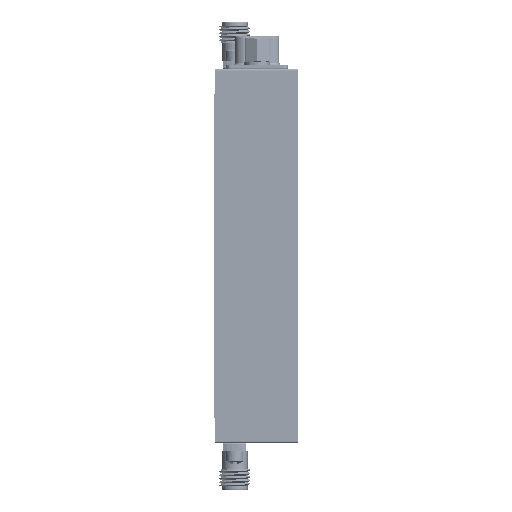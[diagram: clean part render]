
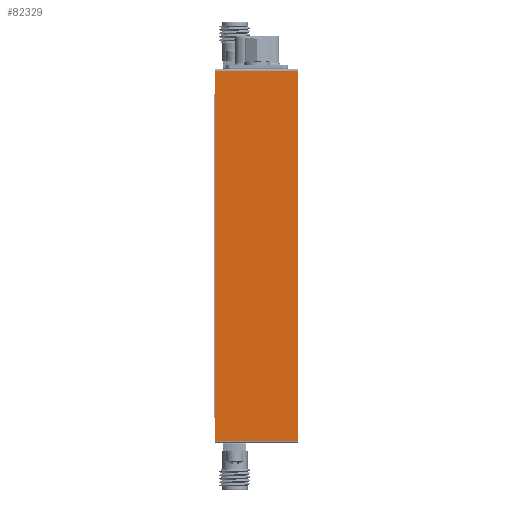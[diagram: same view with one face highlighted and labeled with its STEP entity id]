
A CAD part, left-side view. The second image highlights one B-rep face of the part: STEP entity #82329.
In plain terms, the highlighted planar face has unit normal (-1, 0, 0).
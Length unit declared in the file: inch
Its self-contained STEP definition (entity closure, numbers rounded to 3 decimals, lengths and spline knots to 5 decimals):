
#27375 = VECTOR ( 'NONE', #102559, 39.37008 ) ;
#36133 = EDGE_CURVE ( 'NONE', #170021, #196539, #82356, .T. ) ;
#36140 = ORIENTED_EDGE ( 'NONE', *, *, #221709, .T. ) ;
#48742 = DIRECTION ( 'NONE',  ( 0., -1., 0. ) ) ;
#73698 = CARTESIAN_POINT ( 'NONE',  ( -4.3259, -0.2891, -1.74966 ) ) ;
#82329 = ADVANCED_FACE ( 'NONE', ( #142384 ), #139967, .F. ) ;
#82356 = LINE ( 'NONE', #227125, #201061 ) ;
#87665 = VECTOR ( 'NONE', #213393, 39.37008 ) ;
#89403 = ORIENTED_EDGE ( 'NONE', *, *, #36133, .F. ) ;
#102559 = DIRECTION ( 'NONE',  ( 0., -1., 0. ) ) ;
#103478 = DIRECTION ( 'NONE',  ( 1., 0., 0. ) ) ;
#104943 = LINE ( 'NONE', #231574, #27375 ) ;
#123126 = VERTEX_POINT ( 'NONE', #73698 ) ;
#134722 = VERTEX_POINT ( 'NONE', #174022 ) ;
#139967 = PLANE ( 'NONE',  #173353 ) ;
#142384 = FACE_OUTER_BOUND ( 'NONE', #179515, .T. ) ;
#156993 = CARTESIAN_POINT ( 'NONE',  ( -4.3259, 0.3809, -1.74966 ) ) ;
#161689 = LINE ( 'NONE', #175101, #193420 ) ;
#163027 = DIRECTION ( 'NONE',  ( 0., 0., -1. ) ) ;
#170021 = VERTEX_POINT ( 'NONE', #234622 ) ;
#172385 = DIRECTION ( 'NONE',  ( 0., 0., 1. ) ) ;
#173353 = AXIS2_PLACEMENT_3D ( 'NONE', #156993, #103478, #163027 ) ;
#174022 = CARTESIAN_POINT ( 'NONE',  ( -4.3259, -0.2891, 1.22034 ) ) ;
#175101 = CARTESIAN_POINT ( 'NONE',  ( -4.3259, 0.3809, -1.74966 ) ) ;
#178681 = EDGE_CURVE ( 'NONE', #170021, #123126, #161689, .T. ) ;
#179515 = EDGE_LOOP ( 'NONE', ( #36140, #212175, #89403, #179536 ) ) ;
#179536 = ORIENTED_EDGE ( 'NONE', *, *, #178681, .T. ) ;
#193420 = VECTOR ( 'NONE', #48742, 39.37008 ) ;
#196539 = VERTEX_POINT ( 'NONE', #215253 ) ;
#197636 = CARTESIAN_POINT ( 'NONE',  ( -4.3259, -0.2891, -1.74966 ) ) ;
#201061 = VECTOR ( 'NONE', #172385, 39.37008 ) ;
#212175 = ORIENTED_EDGE ( 'NONE', *, *, #212368, .F. ) ;
#212368 = EDGE_CURVE ( 'NONE', #196539, #134722, #104943, .T. ) ;
#213393 = DIRECTION ( 'NONE',  ( 0., 0., 1. ) ) ;
#215253 = CARTESIAN_POINT ( 'NONE',  ( -4.3259, 0.3809, 1.22034 ) ) ;
#221709 = EDGE_CURVE ( 'NONE', #123126, #134722, #237614, .T. ) ;
#227125 = CARTESIAN_POINT ( 'NONE',  ( -4.3259, 0.3809, -1.74966 ) ) ;
#231574 = CARTESIAN_POINT ( 'NONE',  ( -4.3259, 0.3809, 1.22034 ) ) ;
#234622 = CARTESIAN_POINT ( 'NONE',  ( -4.3259, 0.3809, -1.74966 ) ) ;
#237614 = LINE ( 'NONE', #197636, #87665 ) ;
